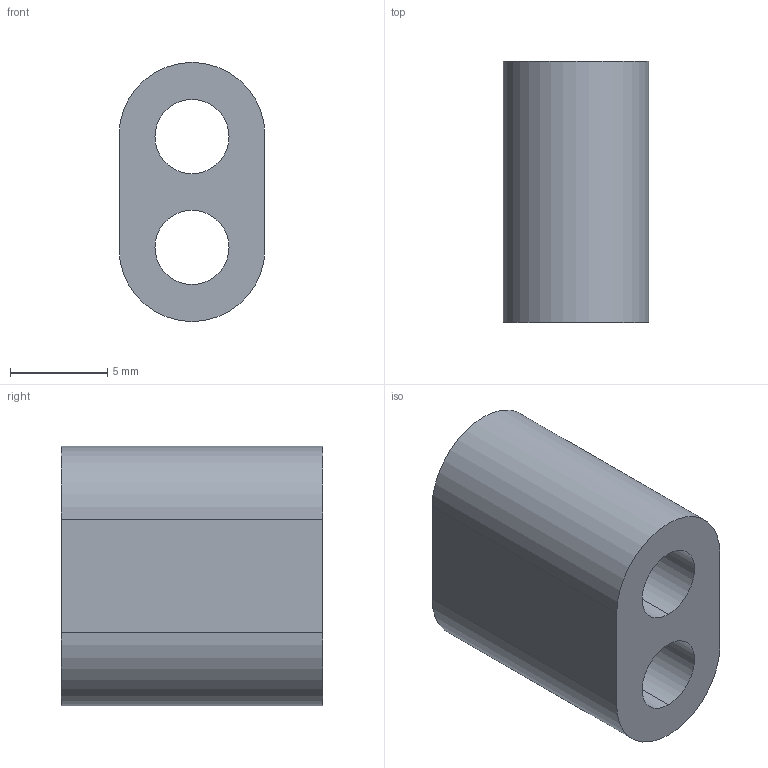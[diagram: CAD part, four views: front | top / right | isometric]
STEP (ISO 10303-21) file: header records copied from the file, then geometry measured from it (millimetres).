
FILE_DESCRIPTION (( 'STEP AP203' ), '1' );
FILE_NAME ('2873000102.STEP', '2019-08-12T19:15:44', ( '' ), ( '' ), 'SwSTEP 2.0', 'SolidWorks 2018', '' );
FILE_SCHEMA (( 'CONFIG_CONTROL_DESIGN' ));
Length unit declared in the file: inch
Products named in the file (1): 2873000102
Bounding box: 7.49 x 13.41 x 13.31 mm (x, y, z)
Volume: 870.1 mm3; surface area: 922.5 mm2
Topology: 1 solids, 1 shells, 11 faces, 27 edges, 18 vertices
Faces by surface type: cylinder 7, plane 4
Entity records: 422 total; most frequent: DIRECTION 65, CARTESIAN_POINT 57, ORIENTED_EDGE 54, EDGE_CURVE 27, AXIS2_PLACEMENT_3D 26, VERTEX_POINT 18, EDGE_LOOP 15, CIRCLE 14
